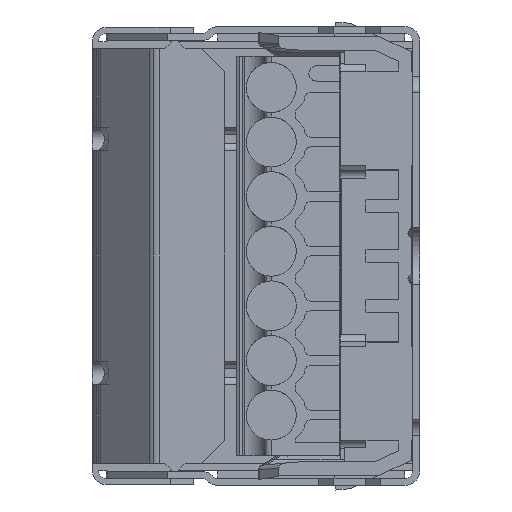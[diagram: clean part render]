
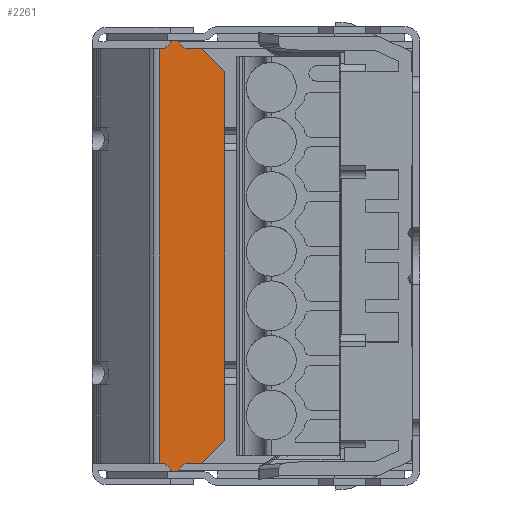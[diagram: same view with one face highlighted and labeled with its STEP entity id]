
A CAD part, left-side view. The second image highlights one B-rep face of the part: STEP entity #2261.
In plain terms, the highlighted planar face has unit normal (-1, 0, 0).
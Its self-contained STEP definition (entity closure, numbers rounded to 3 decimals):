
#751 = VECTOR ( 'NONE', #12639, 1000. ) ;
#1413 = LINE ( 'NONE', #24004, #35801 ) ;
#2051 = VECTOR ( 'NONE', #21821, 1000. ) ;
#2261 = ADVANCED_FACE ( 'NONE', ( #26605 ), #10562, .T. ) ;
#2384 = CARTESIAN_POINT ( 'NONE',  ( -153.999, 5.553, 13.3 ) ) ;
#2593 = VERTEX_POINT ( 'NONE', #39856 ) ;
#2604 = AXIS2_PLACEMENT_3D ( 'NONE', #23440, #36306, #7390 ) ;
#2764 = VECTOR ( 'NONE', #34483, 1000. ) ;
#2875 = EDGE_CURVE ( 'NONE', #14162, #11631, #33274, .T. ) ;
#3538 = VECTOR ( 'NONE', #34129, 1000. ) ;
#3550 = LINE ( 'NONE', #29698, #20937 ) ;
#4508 = EDGE_CURVE ( 'NONE', #2593, #13337, #5974, .T. ) ;
#5187 = DIRECTION ( 'NONE',  ( 0., -1., 0. ) ) ;
#5391 = CARTESIAN_POINT ( 'NONE',  ( -153.999, 4.003, -13.8 ) ) ;
#5526 = CARTESIAN_POINT ( 'NONE',  ( -153.999, 6.853, -13.3 ) ) ;
#5642 = EDGE_CURVE ( 'NONE', #23483, #14162, #36103, .T. ) ;
#5974 = LINE ( 'NONE', #41242, #2764 ) ;
#6578 = LINE ( 'NONE', #2384, #39212 ) ;
#7184 = DIRECTION ( 'NONE',  ( 0., -0.707, -0.707 ) ) ;
#7390 = DIRECTION ( 'NONE',  ( 0., -1., 0. ) ) ;
#7773 = EDGE_CURVE ( 'NONE', #37616, #20641, #24333, .T. ) ;
#8150 = VECTOR ( 'NONE', #17450, 1000. ) ;
#8152 = CARTESIAN_POINT ( 'NONE',  ( -153.999, 4.003, 13.8 ) ) ;
#8187 = CARTESIAN_POINT ( 'NONE',  ( -153.999, 6.053, -13.8 ) ) ;
#8503 = DIRECTION ( 'NONE',  ( 0., 0.707, -0.707 ) ) ;
#9899 = VERTEX_POINT ( 'NONE', #27908 ) ;
#10318 = CARTESIAN_POINT ( 'NONE',  ( -153.999, 312.313, -13.3 ) ) ;
#10518 = ORIENTED_EDGE ( 'NONE', *, *, #20593, .T. ) ;
#10562 = PLANE ( 'NONE',  #2604 ) ;
#11256 = EDGE_CURVE ( 'NONE', #35919, #15192, #21755, .T. ) ;
#11400 = ORIENTED_EDGE ( 'NONE', *, *, #23943, .T. ) ;
#11631 = VERTEX_POINT ( 'NONE', #8187 ) ;
#11961 = CARTESIAN_POINT ( 'NONE',  ( -153.999, 6.853, 13.3 ) ) ;
#12348 = ORIENTED_EDGE ( 'NONE', *, *, #23995, .T. ) ;
#12639 = DIRECTION ( 'NONE',  ( 0., 1., 0. ) ) ;
#13337 = VERTEX_POINT ( 'NONE', #33800 ) ;
#14162 = VERTEX_POINT ( 'NONE', #36658 ) ;
#15192 = VERTEX_POINT ( 'NONE', #25638 ) ;
#15241 = DIRECTION ( 'NONE',  ( 0., 0.707, 0.707 ) ) ;
#15402 = CARTESIAN_POINT ( 'NONE',  ( -153.999, 3.003, -11.8 ) ) ;
#15541 = EDGE_LOOP ( 'NONE', ( #40785, #30762, #27813, #11400, #39616, #25775, #12348, #37028, #32539, #36122, #10518, #17473, #36642, #41639 ) ) ;
#16204 = VECTOR ( 'NONE', #17600, 1000. ) ;
#16849 = DIRECTION ( 'NONE',  ( 0., -1., 0. ) ) ;
#17450 = DIRECTION ( 'NONE',  ( 0., -0.707, 0.707 ) ) ;
#17473 = ORIENTED_EDGE ( 'NONE', *, *, #7773, .T. ) ;
#17600 = DIRECTION ( 'NONE',  ( 0., -1., 0. ) ) ;
#17663 = CARTESIAN_POINT ( 'NONE',  ( -153.999, 4.503, -13.3 ) ) ;
#17823 = VECTOR ( 'NONE', #40568, 1000. ) ;
#18818 = VECTOR ( 'NONE', #8503, 1000. ) ;
#19266 = CARTESIAN_POINT ( 'NONE',  ( -153.999, 6.353, 13.8 ) ) ;
#20261 = CARTESIAN_POINT ( 'NONE',  ( -153.999, 6.853, -13.3 ) ) ;
#20593 = EDGE_CURVE ( 'NONE', #41627, #37616, #27362, .T. ) ;
#20641 = VERTEX_POINT ( 'NONE', #11961 ) ;
#20937 = VECTOR ( 'NONE', #35845, 1000. ) ;
#21398 = LINE ( 'NONE', #34071, #16204 ) ;
#21462 = CARTESIAN_POINT ( 'NONE',  ( -153.999, 4.503, -13.3 ) ) ;
#21755 = LINE ( 'NONE', #31262, #17823 ) ;
#21821 = DIRECTION ( 'NONE',  ( 0., 1., 0. ) ) ;
#21841 = EDGE_CURVE ( 'NONE', #9899, #24014, #21398, .T. ) ;
#21898 = EDGE_CURVE ( 'NONE', #13337, #40369, #22025, .T. ) ;
#22025 = LINE ( 'NONE', #28753, #2051 ) ;
#22926 = CARTESIAN_POINT ( 'NONE',  ( -153.999, 7.208, 13.3 ) ) ;
#23440 = CARTESIAN_POINT ( 'NONE',  ( -153.999, 312.313, 14.65 ) ) ;
#23483 = VERTEX_POINT ( 'NONE', #5526 ) ;
#23943 = EDGE_CURVE ( 'NONE', #11631, #9899, #3550, .T. ) ;
#23995 = EDGE_CURVE ( 'NONE', #36708, #2593, #1413, .T. ) ;
#24004 = CARTESIAN_POINT ( 'NONE',  ( -153.999, 3.003, 14.65 ) ) ;
#24014 = VERTEX_POINT ( 'NONE', #17663 ) ;
#24333 = LINE ( 'NONE', #34056, #18818 ) ;
#24530 = LINE ( 'NONE', #37412, #751 ) ;
#25099 = VECTOR ( 'NONE', #16849, 1000. ) ;
#25638 = CARTESIAN_POINT ( 'NONE',  ( -153.999, 7.208, -13.3 ) ) ;
#25775 = ORIENTED_EDGE ( 'NONE', *, *, #30632, .T. ) ;
#26530 = VECTOR ( 'NONE', #7184, 1000. ) ;
#26605 = FACE_OUTER_BOUND ( 'NONE', #15541, .T. ) ;
#27362 = LINE ( 'NONE', #8152, #3538 ) ;
#27813 = ORIENTED_EDGE ( 'NONE', *, *, #2875, .T. ) ;
#27908 = CARTESIAN_POINT ( 'NONE',  ( -153.999, 5.553, -13.3 ) ) ;
#28753 = CARTESIAN_POINT ( 'NONE',  ( -153.999, 312.313, 13.3 ) ) ;
#29698 = CARTESIAN_POINT ( 'NONE',  ( -153.999, 6.053, -13.8 ) ) ;
#30419 = EDGE_CURVE ( 'NONE', #20641, #35919, #24530, .T. ) ;
#30632 = EDGE_CURVE ( 'NONE', #24014, #36708, #36884, .T. ) ;
#30762 = ORIENTED_EDGE ( 'NONE', *, *, #5642, .T. ) ;
#31262 = CARTESIAN_POINT ( 'NONE',  ( -153.999, 7.208, 14.65 ) ) ;
#32403 = CARTESIAN_POINT ( 'NONE',  ( -153.999, 5.553, 13.3 ) ) ;
#32539 = ORIENTED_EDGE ( 'NONE', *, *, #21898, .T. ) ;
#32964 = EDGE_CURVE ( 'NONE', #40369, #41627, #6578, .T. ) ;
#33274 = LINE ( 'NONE', #5391, #37343 ) ;
#33800 = CARTESIAN_POINT ( 'NONE',  ( -153.999, 4.503, 13.3 ) ) ;
#34056 = CARTESIAN_POINT ( 'NONE',  ( -153.999, 6.853, 13.3 ) ) ;
#34071 = CARTESIAN_POINT ( 'NONE',  ( -153.999, 312.313, -13.3 ) ) ;
#34129 = DIRECTION ( 'NONE',  ( 0., 1., 0. ) ) ;
#34483 = DIRECTION ( 'NONE',  ( 0., 0.707, 0.707 ) ) ;
#35801 = VECTOR ( 'NONE', #37080, 1000. ) ;
#35845 = DIRECTION ( 'NONE',  ( 0., -0.707, 0.707 ) ) ;
#35919 = VERTEX_POINT ( 'NONE', #22926 ) ;
#36103 = LINE ( 'NONE', #20261, #26530 ) ;
#36122 = ORIENTED_EDGE ( 'NONE', *, *, #32964, .T. ) ;
#36306 = DIRECTION ( 'NONE',  ( -1., 0., 0. ) ) ;
#36415 = CARTESIAN_POINT ( 'NONE',  ( -153.999, 6.053, 13.8 ) ) ;
#36642 = ORIENTED_EDGE ( 'NONE', *, *, #30419, .T. ) ;
#36658 = CARTESIAN_POINT ( 'NONE',  ( -153.999, 6.353, -13.8 ) ) ;
#36708 = VERTEX_POINT ( 'NONE', #15402 ) ;
#36835 = EDGE_CURVE ( 'NONE', #15192, #23483, #39029, .T. ) ;
#36884 = LINE ( 'NONE', #21462, #8150 ) ;
#37028 = ORIENTED_EDGE ( 'NONE', *, *, #4508, .T. ) ;
#37080 = DIRECTION ( 'NONE',  ( 0., 0., 1. ) ) ;
#37343 = VECTOR ( 'NONE', #5187, 1000. ) ;
#37412 = CARTESIAN_POINT ( 'NONE',  ( -153.999, 312.313, 13.3 ) ) ;
#37616 = VERTEX_POINT ( 'NONE', #19266 ) ;
#39029 = LINE ( 'NONE', #10318, #25099 ) ;
#39212 = VECTOR ( 'NONE', #15241, 1000. ) ;
#39616 = ORIENTED_EDGE ( 'NONE', *, *, #21841, .T. ) ;
#39856 = CARTESIAN_POINT ( 'NONE',  ( -153.999, 3.003, 11.8 ) ) ;
#40369 = VERTEX_POINT ( 'NONE', #32403 ) ;
#40568 = DIRECTION ( 'NONE',  ( 0., 0., -1. ) ) ;
#40785 = ORIENTED_EDGE ( 'NONE', *, *, #36835, .T. ) ;
#41242 = CARTESIAN_POINT ( 'NONE',  ( -153.999, 3.003, 11.8 ) ) ;
#41627 = VERTEX_POINT ( 'NONE', #36415 ) ;
#41639 = ORIENTED_EDGE ( 'NONE', *, *, #11256, .T. ) ;
